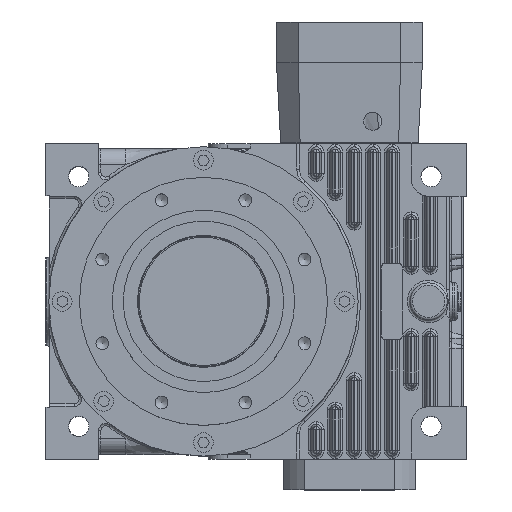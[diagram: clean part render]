
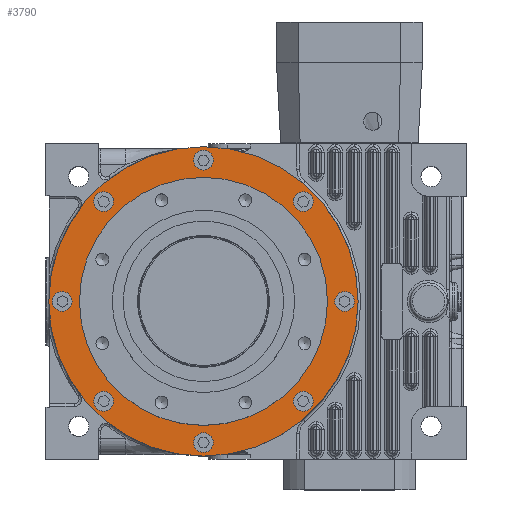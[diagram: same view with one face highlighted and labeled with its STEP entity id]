
A CAD part, top view. The second image highlights one B-rep face of the part: STEP entity #3790.
In plain terms, the highlighted planar face has unit normal (0, 0, 1).
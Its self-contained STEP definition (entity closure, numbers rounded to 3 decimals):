
#3790 = ADVANCED_FACE( '', ( #7681, #7682, #7683, #7684, #7685, #7686, #7687, #7688, #7689, #7690 ), #7691, .T. );
#7681 = FACE_BOUND( '', #52467, .T. );
#7682 = FACE_BOUND( '', #52468, .T. );
#7683 = FACE_BOUND( '', #52469, .T. );
#7684 = FACE_BOUND( '', #52470, .T. );
#7685 = FACE_OUTER_BOUND( '', #52471, .T. );
#7686 = FACE_BOUND( '', #52472, .T. );
#7687 = FACE_BOUND( '', #52473, .T. );
#7688 = FACE_BOUND( '', #52474, .T. );
#7689 = FACE_BOUND( '', #52475, .T. );
#7690 = FACE_BOUND( '', #52476, .T. );
#7691 = PLANE( '', #52477 );
#52467 = EDGE_LOOP( '', ( #64550 ) );
#52468 = EDGE_LOOP( '', ( #64551 ) );
#52469 = EDGE_LOOP( '', ( #64552 ) );
#52470 = EDGE_LOOP( '', ( #64553 ) );
#52471 = EDGE_LOOP( '', ( #64554 ) );
#52472 = EDGE_LOOP( '', ( #64555 ) );
#52473 = EDGE_LOOP( '', ( #64556 ) );
#52474 = EDGE_LOOP( '', ( #64557 ) );
#52475 = EDGE_LOOP( '', ( #64558 ) );
#52476 = EDGE_LOOP( '', ( #64559 ) );
#52477 = AXIS2_PLACEMENT_3D( '', #64560, #64561, #64562 );
#64550 = ORIENTED_EDGE( '', *, *, #72981, .T. );
#64551 = ORIENTED_EDGE( '', *, *, #72982, .T. );
#64552 = ORIENTED_EDGE( '', *, *, #72983, .T. );
#64553 = ORIENTED_EDGE( '', *, *, #72984, .T. );
#64554 = ORIENTED_EDGE( '', *, *, #72954, .T. );
#64555 = ORIENTED_EDGE( '', *, *, #72985, .F. );
#64556 = ORIENTED_EDGE( '', *, *, #72986, .T. );
#64557 = ORIENTED_EDGE( '', *, *, #72987, .T. );
#64558 = ORIENTED_EDGE( '', *, *, #72988, .T. );
#64559 = ORIENTED_EDGE( '', *, *, #72989, .T. );
#64560 = CARTESIAN_POINT( '', ( 0., 0., 15. ) );
#64561 = DIRECTION( '', ( 0., 0., 1. ) );
#64562 = DIRECTION( '', ( 1., 0., 0. ) );
#72954 = EDGE_CURVE( '', #79296, #79296, #79297, .T. );
#72981 = EDGE_CURVE( '', #79350, #79350, #79351, .T. );
#72982 = EDGE_CURVE( '', #79352, #79352, #79353, .T. );
#72983 = EDGE_CURVE( '', #79354, #79354, #79355, .T. );
#72984 = EDGE_CURVE( '', #79356, #79356, #79357, .T. );
#72985 = EDGE_CURVE( '', #79358, #79358, #79359, .T. );
#72986 = EDGE_CURVE( '', #79360, #79360, #79361, .T. );
#72987 = EDGE_CURVE( '', #79362, #79362, #79363, .T. );
#72988 = EDGE_CURVE( '', #79364, #79364, #79365, .T. );
#72989 = EDGE_CURVE( '', #79366, #79366, #79367, .T. );
#79296 = VERTEX_POINT( '', #98212 );
#79297 = CIRCLE( '', #98213, 212. );
#79350 = VERTEX_POINT( '', #98266 );
#79351 = CIRCLE( '', #98267, 9.5 );
#79352 = VERTEX_POINT( '', #98268 );
#79353 = CIRCLE( '', #98269, 9.5 );
#79354 = VERTEX_POINT( '', #98270 );
#79355 = CIRCLE( '', #98271, 9.5 );
#79356 = VERTEX_POINT( '', #98272 );
#79357 = CIRCLE( '', #98273, 9.5 );
#79358 = VERTEX_POINT( '', #98274 );
#79359 = CIRCLE( '', #98275, 170. );
#79360 = VERTEX_POINT( '', #98276 );
#79361 = CIRCLE( '', #98277, 9.5 );
#79362 = VERTEX_POINT( '', #98278 );
#79363 = CIRCLE( '', #98279, 9.5 );
#79364 = VERTEX_POINT( '', #98280 );
#79365 = CIRCLE( '', #98281, 9.5 );
#79366 = VERTEX_POINT( '', #98282 );
#79367 = CIRCLE( '', #98283, 9.5 );
#98212 = CARTESIAN_POINT( '', ( 212., 0., 15. ) );
#98213 = AXIS2_PLACEMENT_3D( '', #109870, #109871, #109872 );
#98266 = CARTESIAN_POINT( '', ( 203., 0., 15. ) );
#98267 = AXIS2_PLACEMENT_3D( '', #109951, #109952, #109953 );
#98268 = CARTESIAN_POINT( '', ( 0., 203., 15. ) );
#98269 = AXIS2_PLACEMENT_3D( '', #109954, #109955, #109956 );
#98270 = CARTESIAN_POINT( '', ( -203., 0., 15. ) );
#98271 = AXIS2_PLACEMENT_3D( '', #109957, #109958, #109959 );
#98272 = CARTESIAN_POINT( '', ( 0., -203., 15. ) );
#98273 = AXIS2_PLACEMENT_3D( '', #109960, #109961, #109962 );
#98274 = CARTESIAN_POINT( '', ( -170., 0., 15. ) );
#98275 = AXIS2_PLACEMENT_3D( '', #109963, #109964, #109965 );
#98276 = CARTESIAN_POINT( '', ( 143.543, -143.543, 15. ) );
#98277 = AXIS2_PLACEMENT_3D( '', #109966, #109967, #109968 );
#98278 = CARTESIAN_POINT( '', ( -143.543, -143.543, 15. ) );
#98279 = AXIS2_PLACEMENT_3D( '', #109969, #109970, #109971 );
#98280 = CARTESIAN_POINT( '', ( -143.543, 143.543, 15. ) );
#98281 = AXIS2_PLACEMENT_3D( '', #109972, #109973, #109974 );
#98282 = CARTESIAN_POINT( '', ( 143.543, 143.543, 15. ) );
#98283 = AXIS2_PLACEMENT_3D( '', #109975, #109976, #109977 );
#109870 = CARTESIAN_POINT( '', ( 0., 0., 15. ) );
#109871 = DIRECTION( '', ( 0., 0., 1. ) );
#109872 = DIRECTION( '', ( 1., 0., 0. ) );
#109951 = CARTESIAN_POINT( '', ( 193.5, 0., 15. ) );
#109952 = DIRECTION( '', ( 0., 0., -1. ) );
#109953 = DIRECTION( '', ( 1., 0., 0. ) );
#109954 = CARTESIAN_POINT( '', ( 0., 193.5, 15. ) );
#109955 = DIRECTION( '', ( 0., 0., -1. ) );
#109956 = DIRECTION( '', ( 0., 1., 0. ) );
#109957 = CARTESIAN_POINT( '', ( -193.5, 0., 15. ) );
#109958 = DIRECTION( '', ( 0., 0., -1. ) );
#109959 = DIRECTION( '', ( -1., 0., 0. ) );
#109960 = CARTESIAN_POINT( '', ( 0., -193.5, 15. ) );
#109961 = DIRECTION( '', ( 0., 0., -1. ) );
#109962 = DIRECTION( '', ( 0., -1., 0. ) );
#109963 = CARTESIAN_POINT( '', ( 0., 0., 15. ) );
#109964 = DIRECTION( '', ( 0., 0., 1. ) );
#109965 = DIRECTION( '', ( -1., 0., 0. ) );
#109966 = CARTESIAN_POINT( '', ( 136.825, -136.825, 15. ) );
#109967 = DIRECTION( '', ( 0., 0., -1. ) );
#109968 = DIRECTION( '', ( 0.707, -0.707, 0. ) );
#109969 = CARTESIAN_POINT( '', ( -136.825, -136.825, 15. ) );
#109970 = DIRECTION( '', ( 0., 0., -1. ) );
#109971 = DIRECTION( '', ( -0.707, -0.707, 0. ) );
#109972 = CARTESIAN_POINT( '', ( -136.825, 136.825, 15. ) );
#109973 = DIRECTION( '', ( 0., 0., -1. ) );
#109974 = DIRECTION( '', ( -0.707, 0.707, 0. ) );
#109975 = CARTESIAN_POINT( '', ( 136.825, 136.825, 15. ) );
#109976 = DIRECTION( '', ( 0., 0., -1. ) );
#109977 = DIRECTION( '', ( 0.707, 0.707, 0. ) );
